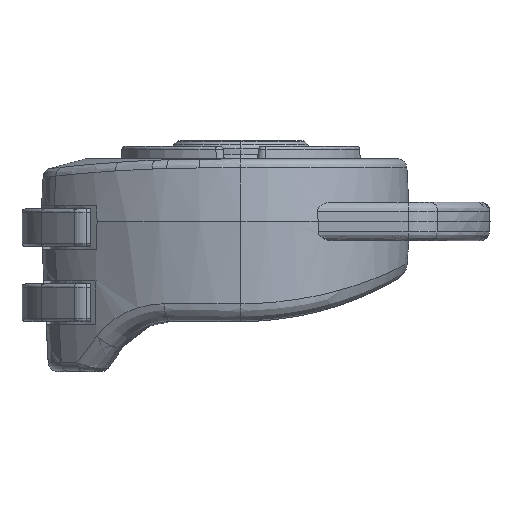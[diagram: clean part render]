
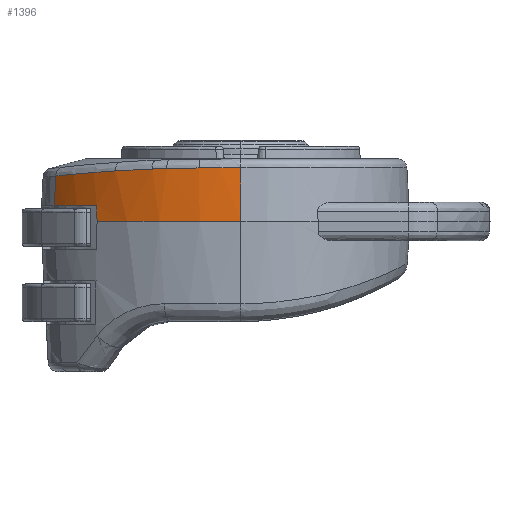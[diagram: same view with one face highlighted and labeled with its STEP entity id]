
A CAD part, left-side view. The second image highlights one B-rep face of the part: STEP entity #1396.
In plain terms, the highlighted free-form (B-spline) face has degree [2, 1] with [9, 2] control points.
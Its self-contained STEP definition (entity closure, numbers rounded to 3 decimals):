
#1396=ADVANCED_FACE('',(#2824),#22900,.T.);
#2824=FACE_OUTER_BOUND('',#4343,.T.);
#4343=EDGE_LOOP('',(#11181,#11182,#11183,#11184,#11185,#11186,#11187,#11188,
#11189,#11190));
#11181=ORIENTED_EDGE('',*,*,#15084,.F.);
#11182=ORIENTED_EDGE('',*,*,#12807,.F.);
#11183=ORIENTED_EDGE('',*,*,#15239,.T.);
#11184=ORIENTED_EDGE('',*,*,#15154,.F.);
#11185=ORIENTED_EDGE('',*,*,#15161,.F.);
#11186=ORIENTED_EDGE('',*,*,#15166,.F.);
#11187=ORIENTED_EDGE('',*,*,#15172,.F.);
#11188=ORIENTED_EDGE('',*,*,#15179,.F.);
#11189=ORIENTED_EDGE('',*,*,#15238,.T.);
#11190=ORIENTED_EDGE('',*,*,#15240,.F.);
#12807=EDGE_CURVE('',#20283,#20284,#18307,.T.);
#15084=EDGE_CURVE('',#20284,#21413,#17691,.T.);
#15154=EDGE_CURVE('',#21435,#21429,#17728,.T.);
#15161=EDGE_CURVE('',#21439,#21435,#18933,.T.);
#15166=EDGE_CURVE('',#21442,#21439,#18936,.T.);
#15172=EDGE_CURVE('',#21445,#21442,#18941,.T.);
#15179=EDGE_CURVE('',#21448,#21445,#18947,.T.);
#15238=EDGE_CURVE('',#21448,#21414,#18996,.T.);
#15239=EDGE_CURVE('',#20283,#21429,#18997,.T.);
#15240=EDGE_CURVE('',#21413,#21414,#18998,.T.);
#17691=B_SPLINE_CURVE_WITH_KNOTS('',3,(#64647,#64648,#64649,#64650,#64651,
#64652,#64653),.UNSPECIFIED.,.F.,.F.,(4,3,4),(0.004,0.005,
0.006),.UNSPECIFIED.);
#17728=B_SPLINE_CURVE_WITH_KNOTS('',3,(#64846,#64847,#64848,#64849,#64850,
#64851),.UNSPECIFIED.,.F.,.F.,(4,2,4),(-0.007,-0.003,
0.),.UNSPECIFIED.);
#18307=(
BOUNDED_CURVE()
B_SPLINE_CURVE(2,(#56770,#56771,#56772),.UNSPECIFIED.,.F.,.F.)
B_SPLINE_CURVE_WITH_KNOTS((3,3),(-24.638,0.),.UNSPECIFIED.)
CURVE()
GEOMETRIC_REPRESENTATION_ITEM()
RATIONAL_B_SPLINE_CURVE((1.,0.95,1.))
REPRESENTATION_ITEM('')
);
#18933=(
BOUNDED_CURVE()
B_SPLINE_CURVE(3,(#64892,#64893,#64894,#64895),.UNSPECIFIED.,.F.,.F.)
B_SPLINE_CURVE_WITH_KNOTS((4,4),(-5.334,0.),
 .UNSPECIFIED.)
CURVE()
GEOMETRIC_REPRESENTATION_ITEM()
RATIONAL_B_SPLINE_CURVE((1.,1.,1.,1.))
REPRESENTATION_ITEM('')
);
#18936=(
BOUNDED_CURVE()
B_SPLINE_CURVE(3,(#64963,#64964,#64965,#64966),.UNSPECIFIED.,.F.,.F.)
B_SPLINE_CURVE_WITH_KNOTS((4,4),(-2.452,0.),
 .UNSPECIFIED.)
CURVE()
GEOMETRIC_REPRESENTATION_ITEM()
RATIONAL_B_SPLINE_CURVE((1.,1.,1.,1.))
REPRESENTATION_ITEM('')
);
#18941=(
BOUNDED_CURVE()
B_SPLINE_CURVE(3,(#64986,#64987,#64988,#64989),.UNSPECIFIED.,.F.,.F.)
B_SPLINE_CURVE_WITH_KNOTS((4,4),(-0.007,0.),.UNSPECIFIED.)
CURVE()
GEOMETRIC_REPRESENTATION_ITEM()
RATIONAL_B_SPLINE_CURVE((1.,1.,1.,1.))
REPRESENTATION_ITEM('')
);
#18947=(
BOUNDED_CURVE()
B_SPLINE_CURVE(3,(#65016,#65017,#65018,#65019,#65020,#65021),
 .UNSPECIFIED.,.F.,.F.)
B_SPLINE_CURVE_WITH_KNOTS((4,2,4),(-12.767,-6.383,
0.),.UNSPECIFIED.)
CURVE()
GEOMETRIC_REPRESENTATION_ITEM()
RATIONAL_B_SPLINE_CURVE((1.,1.,1.,1.,1.,1.))
REPRESENTATION_ITEM('')
);
#18996=(
BOUNDED_CURVE()
B_SPLINE_CURVE(3,(#65336,#65337,#65338,#65339),.UNSPECIFIED.,.F.,.F.)
B_SPLINE_CURVE_WITH_KNOTS((4,4),(0.003,0.008),
 .UNSPECIFIED.)
CURVE()
GEOMETRIC_REPRESENTATION_ITEM()
RATIONAL_B_SPLINE_CURVE((1.,1.,1.,1.))
REPRESENTATION_ITEM('')
);
#18997=(
BOUNDED_CURVE()
B_SPLINE_CURVE(1,(#65340,#65341),.UNSPECIFIED.,.F.,.F.)
B_SPLINE_CURVE_WITH_KNOTS((2,2),(-8.59,0.),.UNSPECIFIED.)
CURVE()
GEOMETRIC_REPRESENTATION_ITEM()
RATIONAL_B_SPLINE_CURVE((1.,1.))
REPRESENTATION_ITEM('')
);
#18998=(
BOUNDED_CURVE()
B_SPLINE_CURVE(2,(#65342,#65343,#65344),.UNSPECIFIED.,.F.,.F.)
B_SPLINE_CURVE_WITH_KNOTS((3,3),(0.,9.461),.UNSPECIFIED.)
CURVE()
GEOMETRIC_REPRESENTATION_ITEM()
RATIONAL_B_SPLINE_CURVE((1.,0.992,1.))
REPRESENTATION_ITEM('')
);
#20283=VERTEX_POINT('',#51070);
#20284=VERTEX_POINT('',#51071);
#21413=VERTEX_POINT('',#52200);
#21414=VERTEX_POINT('',#52201);
#21429=VERTEX_POINT('',#52216);
#21435=VERTEX_POINT('',#52222);
#21439=VERTEX_POINT('',#52226);
#21442=VERTEX_POINT('',#52229);
#21445=VERTEX_POINT('',#52232);
#21448=VERTEX_POINT('',#52235);
#22900=(
BOUNDED_SURFACE()
B_SPLINE_SURFACE(2,1,((#44565,#44566),(#44567,#44568),(#44569,#44570),(#44571,
#44572),(#44573,#44574),(#44575,#44576),(#44577,#44578),(#44579,#44580),
(#44581,#44582)),.UNSPECIFIED.,.T.,.F.,.F.)
B_SPLINE_SURFACE_WITH_KNOTS((3,2,2,2,3),(2,2),(0.,60.731,121.462,
182.194,242.925),(0.,10.311),.UNSPECIFIED.)
GEOMETRIC_REPRESENTATION_ITEM()
RATIONAL_B_SPLINE_SURFACE(((1.,1.),(0.707,0.707),
(1.,1.),(0.707,0.707),(1.,1.),(0.707,
0.707),(1.,1.),(0.707,0.707),(1.,1.)))
REPRESENTATION_ITEM('')
SURFACE()
);
#44565=CARTESIAN_POINT('',(1.741,0.,9.438));
#44566=CARTESIAN_POINT('',(2.28,0.,-0.859));
#44567=CARTESIAN_POINT('',(1.741,-38.123,9.438));
#44568=CARTESIAN_POINT('',(2.28,-38.663,-0.859));
#44569=CARTESIAN_POINT('',(-36.382,-38.123,9.438));
#44570=CARTESIAN_POINT('',(-36.382,-38.663,-0.859));
#44571=CARTESIAN_POINT('',(-74.505,-38.123,9.438));
#44572=CARTESIAN_POINT('',(-75.045,-38.663,-0.859));
#44573=CARTESIAN_POINT('',(-74.505,0.,9.438));
#44574=CARTESIAN_POINT('',(-75.045,0.,-0.859));
#44575=CARTESIAN_POINT('',(-74.505,38.123,9.438));
#44576=CARTESIAN_POINT('',(-75.045,38.663,-0.859));
#44577=CARTESIAN_POINT('',(-36.382,38.123,9.438));
#44578=CARTESIAN_POINT('',(-36.382,38.663,-0.859));
#44579=CARTESIAN_POINT('',(1.741,38.123,9.438));
#44580=CARTESIAN_POINT('',(2.28,38.663,-0.859));
#44581=CARTESIAN_POINT('',(1.741,0.,9.438));
#44582=CARTESIAN_POINT('',(2.28,0.,-0.859));
#51070=CARTESIAN_POINT('',(-75.,0.,0.));
#51071=CARTESIAN_POINT('',(-67.404,23.,0.));
#52200=CARTESIAN_POINT('',(-67.208,23.044,2.5));
#52201=CARTESIAN_POINT('',(-60.673,29.853,2.5));
#52216=CARTESIAN_POINT('',(-74.55,0.,8.578));
#52222=CARTESIAN_POINT('',(-73.96,6.693,8.556));
#52226=CARTESIAN_POINT('',(-72.672,11.844,8.464));
#52229=CARTESIAN_POINT('',(-71.845,14.142,8.389));
#52232=CARTESIAN_POINT('',(-68.909,20.02,8.086));
#52235=CARTESIAN_POINT('',(-60.605,29.586,7.262));
#56770=CARTESIAN_POINT('',(-75.,0.,0.));
#56771=CARTESIAN_POINT('',(-75.,12.754,0.));
#56772=CARTESIAN_POINT('',(-67.404,23.,0.));
#64647=CARTESIAN_POINT('',(-67.404,23.,0.));
#64648=CARTESIAN_POINT('',(-67.369,23.008,0.445));
#64649=CARTESIAN_POINT('',(-67.334,23.016,0.89));
#64650=CARTESIAN_POINT('',(-67.299,23.023,1.335));
#64651=CARTESIAN_POINT('',(-67.269,23.03,1.724));
#64652=CARTESIAN_POINT('',(-67.238,23.037,2.112));
#64653=CARTESIAN_POINT('',(-67.208,23.044,2.5));
#64846=CARTESIAN_POINT('',(-73.96,6.693,8.556));
#64847=CARTESIAN_POINT('',(-74.155,5.595,8.567));
#64848=CARTESIAN_POINT('',(-74.304,4.476,8.572));
#64849=CARTESIAN_POINT('',(-74.502,2.233,8.578));
#64850=CARTESIAN_POINT('',(-74.55,1.115,8.578));
#64851=CARTESIAN_POINT('',(-74.55,0.,8.578));
#64892=CARTESIAN_POINT('',(-72.672,11.844,8.464));
#64893=CARTESIAN_POINT('',(-73.221,10.157,8.511));
#64894=CARTESIAN_POINT('',(-73.65,8.44,8.54));
#64895=CARTESIAN_POINT('',(-73.96,6.693,8.556));
#64963=CARTESIAN_POINT('',(-71.845,14.142,8.389));
#64964=CARTESIAN_POINT('',(-72.145,13.385,8.417));
#64965=CARTESIAN_POINT('',(-72.421,12.619,8.443));
#64966=CARTESIAN_POINT('',(-72.672,11.844,8.464));
#64986=CARTESIAN_POINT('',(-68.909,20.02,8.086));
#64987=CARTESIAN_POINT('',(-70.055,18.146,8.208));
#64988=CARTESIAN_POINT('',(-71.034,16.186,8.311));
#64989=CARTESIAN_POINT('',(-71.845,14.142,8.389));
#65016=CARTESIAN_POINT('',(-60.605,29.586,7.262));
#65017=CARTESIAN_POINT('',(-62.243,28.235,7.407));
#65018=CARTESIAN_POINT('',(-63.766,26.75,7.554));
#65019=CARTESIAN_POINT('',(-66.549,23.542,7.836));
#65020=CARTESIAN_POINT('',(-67.8,21.833,7.969));
#65021=CARTESIAN_POINT('',(-68.909,20.02,8.086));
#65336=CARTESIAN_POINT('',(-60.605,29.586,7.262));
#65337=CARTESIAN_POINT('',(-60.628,29.675,5.675));
#65338=CARTESIAN_POINT('',(-60.65,29.764,4.087));
#65339=CARTESIAN_POINT('',(-60.673,29.853,2.5));
#65340=CARTESIAN_POINT('',(-75.,0.,0.));
#65341=CARTESIAN_POINT('',(-74.55,0.,8.578));
#65342=CARTESIAN_POINT('',(-67.208,23.044,2.5));
#65343=CARTESIAN_POINT('',(-64.361,26.852,2.5));
#65344=CARTESIAN_POINT('',(-60.673,29.853,2.5));
